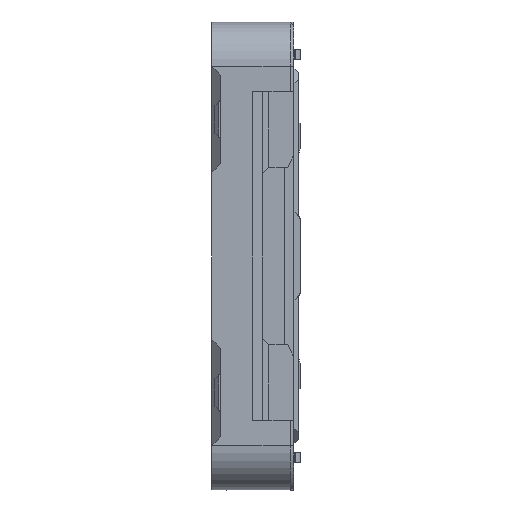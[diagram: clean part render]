
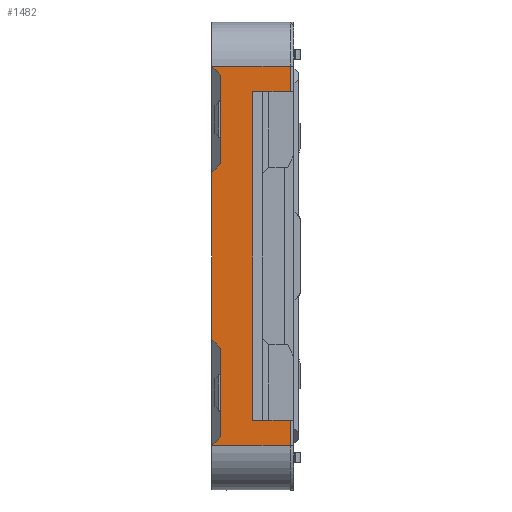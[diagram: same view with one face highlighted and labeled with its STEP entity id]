
A CAD part, left-side view. The second image highlights one B-rep face of the part: STEP entity #1482.
In plain terms, the highlighted planar face has unit normal (-1, 0, 0).
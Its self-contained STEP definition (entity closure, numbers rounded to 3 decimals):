
#362 = CARTESIAN_POINT ( 'NONE',  ( -2.62, 0.63, -0.73 ) ) ;
#496 = CARTESIAN_POINT ( 'NONE',  ( -2.62, 0.375, -1.3 ) ) ;
#616 = VECTOR ( 'NONE', #12852, 1000. ) ;
#788 = CARTESIAN_POINT ( 'NONE',  ( -2.62, 0.63, -1.43 ) ) ;
#902 = LINE ( 'NONE', #788, #7573 ) ;
#1394 = EDGE_CURVE ( 'NONE', #15026, #10123, #16468, .T. ) ;
#1401 = LINE ( 'NONE', #19731, #21392 ) ;
#1482 = ADVANCED_FACE ( 'NONE', ( #1996 ), #6753, .T. ) ;
#1489 = VERTEX_POINT ( 'NONE', #16789 ) ;
#1585 = VERTEX_POINT ( 'NONE', #19489 ) ;
#1754 = ORIENTED_EDGE ( 'NONE', *, *, #15946, .T. ) ;
#1996 = FACE_OUTER_BOUND ( 'NONE', #12882, .T. ) ;
#2016 = CARTESIAN_POINT ( 'NONE',  ( -2.62, 0.63, -0.73 ) ) ;
#2164 = AXIS2_PLACEMENT_3D ( 'NONE', #8504, #3438, #18659 ) ;
#2269 = VERTEX_POINT ( 'NONE', #10720 ) ;
#2498 = LINE ( 'NONE', #9341, #15214 ) ;
#2650 = LINE ( 'NONE', #21053, #4422 ) ;
#2756 = CARTESIAN_POINT ( 'NONE',  ( -2.62, 0.63, -1.43 ) ) ;
#2797 = LINE ( 'NONE', #362, #4282 ) ;
#3152 = EDGE_CURVE ( 'NONE', #3216, #2269, #2797, .T. ) ;
#3170 = DIRECTION ( 'NONE',  ( 0., 1., 0. ) ) ;
#3216 = VERTEX_POINT ( 'NONE', #2016 ) ;
#3275 = VECTOR ( 'NONE', #18149, 1000. ) ;
#3368 = ORIENTED_EDGE ( 'NONE', *, *, #19840, .F. ) ;
#3438 = DIRECTION ( 'NONE',  ( -1., 0., 0. ) ) ;
#3609 = ORIENTED_EDGE ( 'NONE', *, *, #13254, .T. ) ;
#4074 = CARTESIAN_POINT ( 'NONE',  ( -2.62, 0.7, 0.66 ) ) ;
#4200 = CARTESIAN_POINT ( 'NONE',  ( -2.62, 0.63, 1.43 ) ) ;
#4244 = LINE ( 'NONE', #9103, #21046 ) ;
#4259 = CARTESIAN_POINT ( 'NONE',  ( -2.62, 0.7, 1.5 ) ) ;
#4282 = VECTOR ( 'NONE', #17027, 1000. ) ;
#4422 = VECTOR ( 'NONE', #12767, 1000. ) ;
#4431 = VERTEX_POINT ( 'NONE', #8889 ) ;
#5355 = EDGE_CURVE ( 'NONE', #10123, #3216, #902, .T. ) ;
#5397 = DIRECTION ( 'NONE',  ( 0., 1., 0. ) ) ;
#5450 = EDGE_CURVE ( 'NONE', #1585, #9922, #2650, .T. ) ;
#5573 = VERTEX_POINT ( 'NONE', #16560 ) ;
#6256 = CARTESIAN_POINT ( 'NONE',  ( -2.62, 0.63, 0.73 ) ) ;
#6753 = PLANE ( 'NONE',  #2164 ) ;
#6905 = ORIENTED_EDGE ( 'NONE', *, *, #18439, .T. ) ;
#7251 = LINE ( 'NONE', #18629, #16100 ) ;
#7573 = VECTOR ( 'NONE', #11221, 1000. ) ;
#7854 = ORIENTED_EDGE ( 'NONE', *, *, #10419, .F. ) ;
#7909 = LINE ( 'NONE', #18070, #8884 ) ;
#8405 = VERTEX_POINT ( 'NONE', #4200 ) ;
#8504 = CARTESIAN_POINT ( 'NONE',  ( -2.62, 0.58, -1.5 ) ) ;
#8884 = VECTOR ( 'NONE', #3170, 1000. ) ;
#8889 = CARTESIAN_POINT ( 'NONE',  ( -2.62, 0.63, 0.73 ) ) ;
#9103 = CARTESIAN_POINT ( 'NONE',  ( -2.62, 0.7, 1.5 ) ) ;
#9341 = CARTESIAN_POINT ( 'NONE',  ( -2.62, 0.08, -1.3 ) ) ;
#9542 = ORIENTED_EDGE ( 'NONE', *, *, #5355, .F. ) ;
#9628 = CARTESIAN_POINT ( 'NONE',  ( -2.62, 0.7, -1.5 ) ) ;
#9922 = VERTEX_POINT ( 'NONE', #15919 ) ;
#9941 = CARTESIAN_POINT ( 'NONE',  ( -2.62, 0.05, -1.3 ) ) ;
#10069 = VERTEX_POINT ( 'NONE', #496 ) ;
#10123 = VERTEX_POINT ( 'NONE', #2756 ) ;
#10419 = EDGE_CURVE ( 'NONE', #13968, #15026, #7909, .T. ) ;
#10720 = CARTESIAN_POINT ( 'NONE',  ( -2.62, 0.7, -0.66 ) ) ;
#10785 = EDGE_CURVE ( 'NONE', #2269, #18247, #21453, .T. ) ;
#11221 = DIRECTION ( 'NONE',  ( 0., 0., 1. ) ) ;
#12030 = CARTESIAN_POINT ( 'NONE',  ( -2.62, 0.08, -1.5 ) ) ;
#12353 = EDGE_CURVE ( 'NONE', #1585, #5573, #18453, .T. ) ;
#12447 = VERTEX_POINT ( 'NONE', #4259 ) ;
#12618 = LINE ( 'NONE', #6256, #616 ) ;
#12767 = DIRECTION ( 'NONE',  ( 0., 1., 0. ) ) ;
#12852 = DIRECTION ( 'NONE',  ( 0., -0.707, 0.707 ) ) ;
#12882 = EDGE_LOOP ( 'NONE', ( #14375, #17303, #19253, #6905, #15971, #18449, #3368, #13264, #15690, #9542, #18668, #7854, #1754, #3609 ) ) ;
#13007 = DIRECTION ( 'NONE',  ( 0., -0.707, 0.707 ) ) ;
#13254 = EDGE_CURVE ( 'NONE', #1489, #10069, #19896, .T. ) ;
#13264 = ORIENTED_EDGE ( 'NONE', *, *, #10785, .F. ) ;
#13968 = VERTEX_POINT ( 'NONE', #12030 ) ;
#14320 = VECTOR ( 'NONE', #20117, 1000. ) ;
#14375 = ORIENTED_EDGE ( 'NONE', *, *, #18691, .T. ) ;
#14455 = DIRECTION ( 'NONE',  ( 0., 0.707, 0.707 ) ) ;
#15026 = VERTEX_POINT ( 'NONE', #19939 ) ;
#15152 = VECTOR ( 'NONE', #16461, 1000. ) ;
#15214 = VECTOR ( 'NONE', #19500, 1000. ) ;
#15690 = ORIENTED_EDGE ( 'NONE', *, *, #3152, .F. ) ;
#15832 = VECTOR ( 'NONE', #13007, 1000. ) ;
#15919 = CARTESIAN_POINT ( 'NONE',  ( -2.62, 0.375, 1.3 ) ) ;
#15946 = EDGE_CURVE ( 'NONE', #13968, #1489, #2498, .T. ) ;
#15971 = ORIENTED_EDGE ( 'NONE', *, *, #21380, .F. ) ;
#16100 = VECTOR ( 'NONE', #5397, 1000. ) ;
#16412 = DIRECTION ( 'NONE',  ( 0., 0., 1. ) ) ;
#16461 = DIRECTION ( 'NONE',  ( 0., 1., 0. ) ) ;
#16468 = LINE ( 'NONE', #9628, #15832 ) ;
#16560 = CARTESIAN_POINT ( 'NONE',  ( -2.62, 0.08, 1.5 ) ) ;
#16789 = CARTESIAN_POINT ( 'NONE',  ( -2.62, 0.08, -1.3 ) ) ;
#17027 = DIRECTION ( 'NONE',  ( 0., 0.707, 0.707 ) ) ;
#17303 = ORIENTED_EDGE ( 'NONE', *, *, #5450, .F. ) ;
#17410 = CARTESIAN_POINT ( 'NONE',  ( -2.62, 0.08, -1.5 ) ) ;
#17445 = DIRECTION ( 'NONE',  ( 0., 0., 1. ) ) ;
#18070 = CARTESIAN_POINT ( 'NONE',  ( -2.62, 0.58, -1.5 ) ) ;
#18149 = DIRECTION ( 'NONE',  ( 0., 0., 1. ) ) ;
#18247 = VERTEX_POINT ( 'NONE', #4074 ) ;
#18439 = EDGE_CURVE ( 'NONE', #5573, #12447, #7251, .T. ) ;
#18449 = ORIENTED_EDGE ( 'NONE', *, *, #19216, .F. ) ;
#18453 = LINE ( 'NONE', #17410, #14320 ) ;
#18629 = CARTESIAN_POINT ( 'NONE',  ( -2.62, 0.58, 1.5 ) ) ;
#18659 = DIRECTION ( 'NONE',  ( 0., 0., 1. ) ) ;
#18668 = ORIENTED_EDGE ( 'NONE', *, *, #1394, .F. ) ;
#18691 = EDGE_CURVE ( 'NONE', #10069, #9922, #1401, .T. ) ;
#18926 = VECTOR ( 'NONE', #17445, 1000. ) ;
#19109 = CARTESIAN_POINT ( 'NONE',  ( -2.62, 0.63, 0.73 ) ) ;
#19216 = EDGE_CURVE ( 'NONE', #4431, #8405, #20317, .T. ) ;
#19253 = ORIENTED_EDGE ( 'NONE', *, *, #12353, .T. ) ;
#19489 = CARTESIAN_POINT ( 'NONE',  ( -2.62, 0.08, 1.3 ) ) ;
#19500 = DIRECTION ( 'NONE',  ( 0., 0., 1. ) ) ;
#19589 = CARTESIAN_POINT ( 'NONE',  ( -2.62, 0.7, -1.5 ) ) ;
#19731 = CARTESIAN_POINT ( 'NONE',  ( -2.62, 0.375, -1.5 ) ) ;
#19840 = EDGE_CURVE ( 'NONE', #18247, #4431, #12618, .T. ) ;
#19896 = LINE ( 'NONE', #9941, #15152 ) ;
#19939 = CARTESIAN_POINT ( 'NONE',  ( -2.62, 0.7, -1.5 ) ) ;
#20117 = DIRECTION ( 'NONE',  ( 0., 0., 1. ) ) ;
#20317 = LINE ( 'NONE', #19109, #18926 ) ;
#21046 = VECTOR ( 'NONE', #14455, 1000. ) ;
#21053 = CARTESIAN_POINT ( 'NONE',  ( -2.62, 0.05, 1.3 ) ) ;
#21380 = EDGE_CURVE ( 'NONE', #8405, #12447, #4244, .T. ) ;
#21392 = VECTOR ( 'NONE', #16412, 1000. ) ;
#21453 = LINE ( 'NONE', #19589, #3275 ) ;
